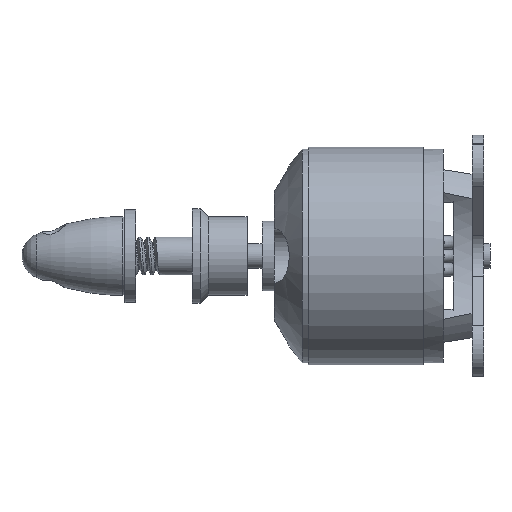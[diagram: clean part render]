
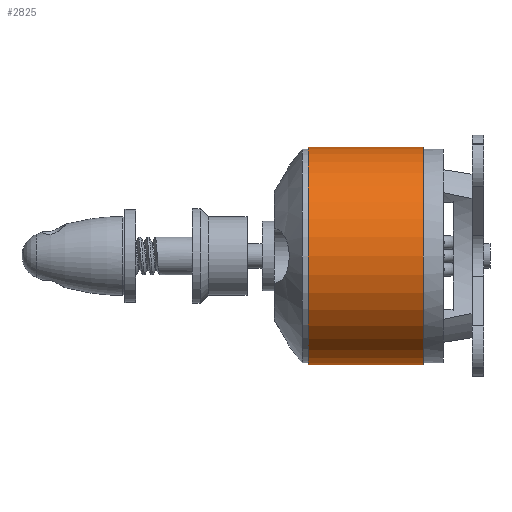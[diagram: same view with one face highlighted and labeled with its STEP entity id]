
A CAD part, left-side view. The second image highlights one B-rep face of the part: STEP entity #2825.
In plain terms, the highlighted cylindrical face has radius 13.843 mm (diameter 27.686 mm), a full revolution.
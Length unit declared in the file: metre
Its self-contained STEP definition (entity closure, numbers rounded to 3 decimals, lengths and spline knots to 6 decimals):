
#274=CYLINDRICAL_SURFACE('',#3328,0.013843);
#1046=ORIENTED_EDGE('',*,*,#1519,.T.);
#1047=ORIENTED_EDGE('',*,*,#1520,.F.);
#1519=EDGE_CURVE('',#1808,#1808,#1985,.T.);
#1520=EDGE_CURVE('',#1809,#1809,#1986,.T.);
#1808=VERTEX_POINT('',#10208);
#1809=VERTEX_POINT('',#10211);
#1985=CIRCLE('',#3327,0.013843);
#1986=CIRCLE('',#3329,0.013843);
#2234=EDGE_LOOP('',(#1046));
#2235=EDGE_LOOP('',(#1047));
#2525=FACE_BOUND('',#2234,.T.);
#2526=FACE_BOUND('',#2235,.T.);
#2825=ADVANCED_FACE('',(#2525,#2526),#274,.T.);
#3327=AXIS2_PLACEMENT_3D('',#10207,#4043,#4044);
#3328=AXIS2_PLACEMENT_3D('',#10209,#4045,#4046);
#3329=AXIS2_PLACEMENT_3D('',#10210,#4047,#4048);
#4043=DIRECTION('',(0.,-1.,0.));
#4044=DIRECTION('',(0.,0.,-1.));
#4045=DIRECTION('',(0.,-1.,0.));
#4046=DIRECTION('',(0.,0.,-1.));
#4047=DIRECTION('',(0.,-1.,0.));
#4048=DIRECTION('',(0.,0.,-1.));
#10207=CARTESIAN_POINT('',(0.,-0.005842,0.));
#10208=CARTESIAN_POINT('',(0.,-0.005842,-0.013843));
#10209=CARTESIAN_POINT('',(0.,-0.028956,0.));
#10210=CARTESIAN_POINT('',(0.,-0.020472,0.));
#10211=CARTESIAN_POINT('',(0.,-0.020472,-0.013843));
